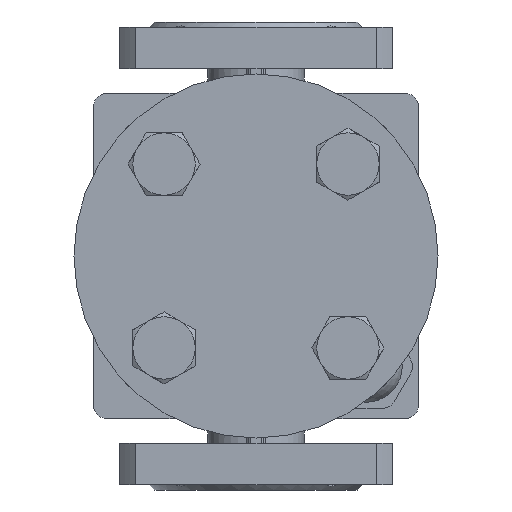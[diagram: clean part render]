
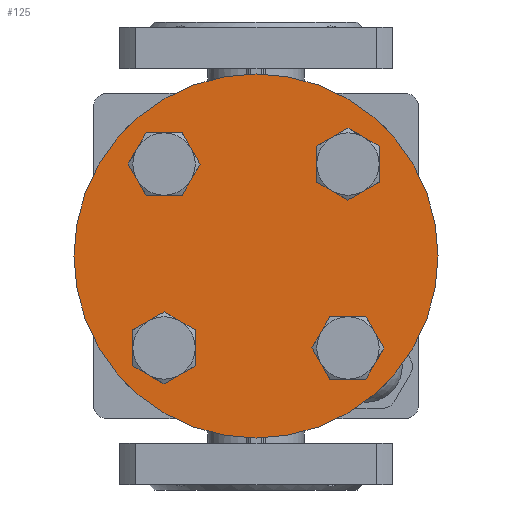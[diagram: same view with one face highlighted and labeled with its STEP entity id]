
A CAD part, front view. The second image highlights one B-rep face of the part: STEP entity #125.
In plain terms, the highlighted planar face has unit normal (0, -1, 0).
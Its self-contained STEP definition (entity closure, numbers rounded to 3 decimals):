
#125=ADVANCED_FACE('',(#9225,#9227,#9229,#9231,#9233),#9235,.F.);
#9225=FACE_BOUND('',#9226,.T.);
#9226=EDGE_LOOP('',(#22686));
#9227=FACE_BOUND('',#9228,.T.);
#9228=EDGE_LOOP('',(#22687));
#9229=FACE_BOUND('',#9230,.T.);
#9230=EDGE_LOOP('',(#22688));
#9231=FACE_BOUND('',#9232,.T.);
#9232=EDGE_LOOP('',(#22689));
#9233=FACE_BOUND('',#9234,.T.);
#9234=EDGE_LOOP('',(#22690));
#9235=PLANE('',#9236);
#9236=AXIS2_PLACEMENT_3D('',#9237,#9238,#9239);
#9237=CARTESIAN_POINT('',(0.,-110.,0.));
#9238=DIRECTION('',(0.,1.,0.));
#9239=DIRECTION('',(-1.,0.,0.));
#22686=ORIENTED_EDGE('',*,*,#30656,.F.);
#22687=ORIENTED_EDGE('',*,*,#30657,.F.);
#22688=ORIENTED_EDGE('',*,*,#30658,.F.);
#22689=ORIENTED_EDGE('',*,*,#30659,.F.);
#22690=ORIENTED_EDGE('',*,*,#30660,.F.);
#30656=EDGE_CURVE('',#34383,#34383,#34384,.T.);
#30657=EDGE_CURVE('',#34385,#34385,#34386,.T.);
#30658=EDGE_CURVE('',#34387,#34387,#34388,.T.);
#30659=EDGE_CURVE('',#34389,#34389,#34390,.T.);
#30660=EDGE_CURVE('',#34391,#34391,#34392,.T.);
#34383=VERTEX_POINT('',#40548);
#34384=CIRCLE('',#40549,70.);
#34385=VERTEX_POINT('',#40553);
#34386=CIRCLE('',#40554,12.);
#34387=VERTEX_POINT('',#40558);
#34388=CIRCLE('',#40559,12.);
#34389=VERTEX_POINT('',#40563);
#34390=CIRCLE('',#40564,12.);
#34391=VERTEX_POINT('',#40568);
#34392=CIRCLE('',#40569,12.);
#40548=CARTESIAN_POINT('',(-70.,-110.,0.));
#40549=AXIS2_PLACEMENT_3D('',#40550,#40551,#40552);
#40550=CARTESIAN_POINT('',(0.,-110.,0.));
#40551=DIRECTION('',(0.,1.,0.));
#40552=DIRECTION('',(-1.,0.,0.));
#40553=CARTESIAN_POINT('',(47.355,-110.,35.355));
#40554=AXIS2_PLACEMENT_3D('',#40555,#40556,#40557);
#40555=CARTESIAN_POINT('',(35.355,-110.,35.355));
#40556=DIRECTION('',(0.,-1.,0.));
#40557=DIRECTION('',(1.,0.,0.));
#40558=CARTESIAN_POINT('',(35.355,-110.,-47.355));
#40559=AXIS2_PLACEMENT_3D('',#40560,#40561,#40562);
#40560=CARTESIAN_POINT('',(35.355,-110.,-35.355));
#40561=DIRECTION('',(0.,-1.,0.));
#40562=DIRECTION('',(0.,0.,-1.));
#40563=CARTESIAN_POINT('',(-47.355,-110.,-35.355));
#40564=AXIS2_PLACEMENT_3D('',#40565,#40566,#40567);
#40565=CARTESIAN_POINT('',(-35.355,-110.,-35.355));
#40566=DIRECTION('',(0.,-1.,0.));
#40567=DIRECTION('',(-1.,0.,0.));
#40568=CARTESIAN_POINT('',(-35.355,-110.,47.355));
#40569=AXIS2_PLACEMENT_3D('',#40570,#40571,#40572);
#40570=CARTESIAN_POINT('',(-35.355,-110.,35.355));
#40571=DIRECTION('',(0.,-1.,0.));
#40572=DIRECTION('',(0.,0.,1.));
